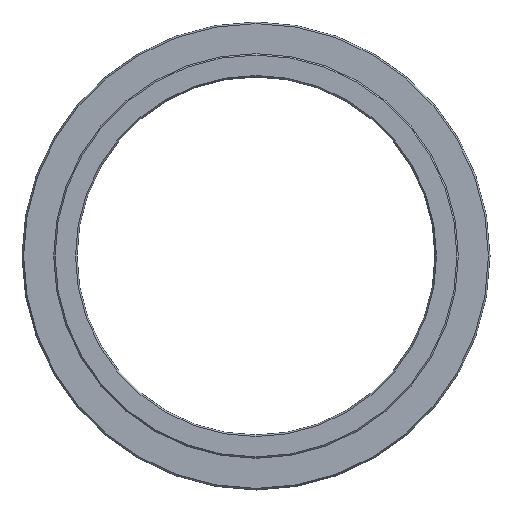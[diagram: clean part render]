
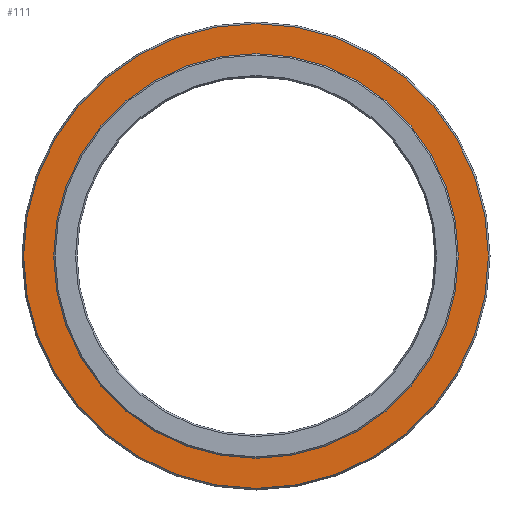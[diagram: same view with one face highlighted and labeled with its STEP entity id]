
A CAD part, left-side view. The second image highlights one B-rep face of the part: STEP entity #111.
In plain terms, the highlighted planar face has unit normal (-1, 0, 0).
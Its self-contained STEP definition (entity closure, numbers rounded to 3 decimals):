
#97=PLANE('',#323);
#111=ADVANCED_FACE('',(#144,#145),#97,.T.);
#144=FACE_BOUND('',#175,.T.);
#145=FACE_BOUND('',#176,.T.);
#175=EDGE_LOOP('',(#214));
#176=EDGE_LOOP('',(#215));
#214=ORIENTED_EDGE('',*,*,#279,.T.);
#215=ORIENTED_EDGE('',*,*,#280,.T.);
#258=VERTEX_POINT('',#465);
#259=VERTEX_POINT('',#467);
#279=EDGE_CURVE('',#258,#258,#298,.T.);
#280=EDGE_CURVE('',#259,#259,#299,.T.);
#298=CIRCLE('',#321,84.423);
#299=CIRCLE('',#322,73.5);
#321=AXIS2_PLACEMENT_3D('',#464,#369,#370);
#322=AXIS2_PLACEMENT_3D('',#466,#371,#372);
#323=AXIS2_PLACEMENT_3D('',#468,#373,#374);
#369=DIRECTION('',(-1.,0.,0.));
#370=DIRECTION('',(0.,0.,1.));
#371=DIRECTION('',(1.,0.,0.));
#372=DIRECTION('',(0.,0.,-1.));
#373=DIRECTION('',(-1.,0.,0.));
#374=DIRECTION('',(0.,0.,1.));
#464=CARTESIAN_POINT('',(0.,0.,0.));
#465=CARTESIAN_POINT('',(0.,0.,84.423));
#466=CARTESIAN_POINT('',(0.,0.,0.));
#467=CARTESIAN_POINT('',(0.,0.,-73.5));
#468=CARTESIAN_POINT('',(0.,85.,0.));
